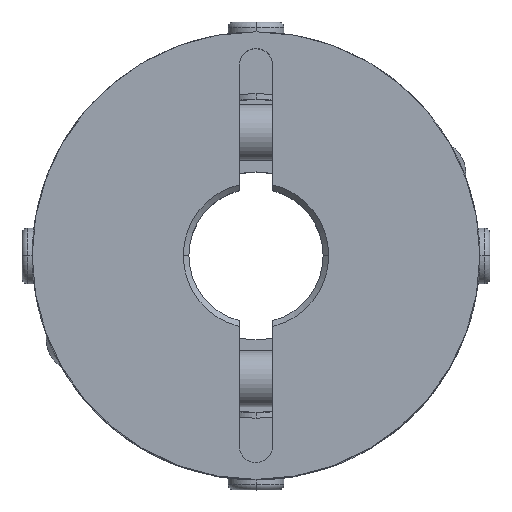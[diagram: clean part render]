
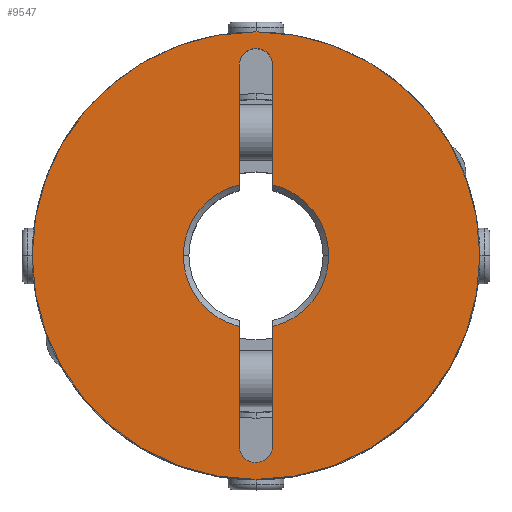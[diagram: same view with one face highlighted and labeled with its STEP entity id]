
A CAD part, top view. The second image highlights one B-rep face of the part: STEP entity #9547.
In plain terms, the highlighted planar face has unit normal (0, 0, 1).
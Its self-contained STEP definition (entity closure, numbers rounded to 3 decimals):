
#829=CARTESIAN_POINT('',(-20.0,0.,20.0));
#830=VERTEX_POINT('',#829);
#837=CARTESIAN_POINT('',(20.0,0.0,20.0));
#838=VERTEX_POINT('',#837);
#839=CARTESIAN_POINT('',(0.0,0.0,20.0));
#840=DIRECTION('',(0.0,0.0,-1.0));
#841=DIRECTION('',(1.0,0.0,0.0));
#842=AXIS2_PLACEMENT_3D('',#839,#840,#841);
#843=CIRCLE('',#842,20.0);
#844=EDGE_CURVE('',#830,#838,#843,.T.);
#1155=CARTESIAN_POINT('',(-1.061,18.061,20.0));
#1156=VERTEX_POINT('',#1155);
#1172=CARTESIAN_POINT('',(1.5,17.,20.0));
#1173=VERTEX_POINT('',#1172);
#1180=CARTESIAN_POINT('',(0.,17.,20.0));
#1181=DIRECTION('',(0.0,0.0,1.));
#1182=DIRECTION('',(0.707,0.707,0.0));
#1183=AXIS2_PLACEMENT_3D('',#1180,#1181,#1182);
#1184=CIRCLE('',#1183,1.5);
#1185=EDGE_CURVE('',#1173,#1156,#1184,.T.);
#1197=CARTESIAN_POINT('',(1.061,-18.061,20.0));
#1198=VERTEX_POINT('',#1197);
#1214=CARTESIAN_POINT('',(-1.5,-17.,20.0));
#1215=VERTEX_POINT('',#1214);
#1222=CARTESIAN_POINT('',(0.0,-17.,20.0));
#1223=DIRECTION('',(0.0,0.0,1.0));
#1224=DIRECTION('',(-0.707,-0.707,0.0));
#1225=AXIS2_PLACEMENT_3D('',#1222,#1223,#1224);
#1226=CIRCLE('',#1225,1.5);
#1227=EDGE_CURVE('',#1215,#1198,#1226,.T.);
#1237=CARTESIAN_POINT('',(-6.5,0.,20.0));
#1238=VERTEX_POINT('',#1237);
#1245=CARTESIAN_POINT('',(-1.5,-6.325,20.0));
#1246=VERTEX_POINT('',#1245);
#1247=CARTESIAN_POINT('',(0.0,0.0,20.0));
#1248=DIRECTION('',(0.0,0.0,1.0));
#1249=DIRECTION('',(-1.0,0.0,0.0));
#1250=AXIS2_PLACEMENT_3D('',#1247,#1248,#1249);
#1251=CIRCLE('',#1250,6.5);
#1252=EDGE_CURVE('',#1238,#1246,#1251,.T.);
#1276=CARTESIAN_POINT('',(6.5,0.,20.0));
#1277=VERTEX_POINT('',#1276);
#1284=CARTESIAN_POINT('',(1.5,6.325,20.0));
#1285=VERTEX_POINT('',#1284);
#1286=CARTESIAN_POINT('',(0.0,0.0,20.0));
#1287=DIRECTION('',(0.0,0.0,1.0));
#1288=DIRECTION('',(1.0,0.0,0.0));
#1289=AXIS2_PLACEMENT_3D('',#1286,#1287,#1288);
#1290=CIRCLE('',#1289,6.5);
#1291=EDGE_CURVE('',#1277,#1285,#1290,.T.);
#9352=CARTESIAN_POINT('',(-1.5,17.,20.0));
#9353=VERTEX_POINT('',#9352);
#9360=CARTESIAN_POINT('',(-1.5,6.325,20.0));
#9361=VERTEX_POINT('',#9360);
#9362=CARTESIAN_POINT('',(-1.5,6.325,20.0));
#9363=DIRECTION('',(0.0,1.0,0.0));
#9364=VECTOR('',#9363,10.675);
#9365=LINE('',#9362,#9364);
#9366=EDGE_CURVE('',#9361,#9353,#9365,.T.);
#9441=CARTESIAN_POINT('',(1.5,17.,20.0));
#9442=DIRECTION('',(0.0,-1.0,0.0));
#9443=VECTOR('',#9442,10.675);
#9444=LINE('',#9441,#9443);
#9445=EDGE_CURVE('',#1173,#1285,#9444,.T.);
#9463=CARTESIAN_POINT('',(1.5,-6.325,20.0));
#9464=VERTEX_POINT('',#9463);
#9478=CARTESIAN_POINT('',(0.0,0.0,20.0));
#9479=DIRECTION('',(0.0,0.0,1.0));
#9480=DIRECTION('',(1.0,0.0,0.0));
#9481=AXIS2_PLACEMENT_3D('',#9478,#9479,#9480);
#9482=CIRCLE('',#9481,6.5);
#9483=EDGE_CURVE('',#9464,#1277,#9482,.T.);
#9488=CARTESIAN_POINT('',(1.818,0.,20.0));
#9489=DIRECTION('',(0.0,0.0,1.0));
#9490=DIRECTION('',(1.0,0.0,0.0));
#9491=AXIS2_PLACEMENT_3D('',#9488,#9489,#9490);
#9492=PLANE('',#9491);
#9493=CARTESIAN_POINT('',(0.0,0.0,20.0));
#9494=DIRECTION('',(0.0,0.0,-1.0));
#9495=DIRECTION('',(1.0,0.0,0.0));
#9496=AXIS2_PLACEMENT_3D('',#9493,#9494,#9495);
#9497=CIRCLE('',#9496,20.0);
#9498=EDGE_CURVE('',#838,#830,#9497,.T.);
#9499=ORIENTED_EDGE('',*,*,#9498,.F.);
#9500=ORIENTED_EDGE('',*,*,#844,.F.);
#9501=EDGE_LOOP('',(#9499,#9500));
#9502=FACE_OUTER_BOUND('',#9501,.T.);
#9503=ORIENTED_EDGE('',*,*,#9483,.F.);
#9504=CARTESIAN_POINT('',(1.5,-17.,20.0));
#9505=VERTEX_POINT('',#9504);
#9506=CARTESIAN_POINT('',(1.5,-6.325,20.0));
#9507=DIRECTION('',(0.0,-1.0,0.0));
#9508=VECTOR('',#9507,10.675);
#9509=LINE('',#9506,#9508);
#9510=EDGE_CURVE('',#9464,#9505,#9509,.T.);
#9511=ORIENTED_EDGE('',*,*,#9510,.T.);
#9512=CARTESIAN_POINT('',(0.0,-17.,20.0));
#9513=DIRECTION('',(0.0,0.0,1.0));
#9514=DIRECTION('',(-0.707,-0.707,0.0));
#9515=AXIS2_PLACEMENT_3D('',#9512,#9513,#9514);
#9516=CIRCLE('',#9515,1.5);
#9517=EDGE_CURVE('',#1198,#9505,#9516,.T.);
#9518=ORIENTED_EDGE('',*,*,#9517,.F.);
#9519=ORIENTED_EDGE('',*,*,#1227,.F.);
#9520=CARTESIAN_POINT('',(-1.5,-17.,20.0));
#9521=DIRECTION('',(0.0,1.0,0.0));
#9522=VECTOR('',#9521,10.675);
#9523=LINE('',#9520,#9522);
#9524=EDGE_CURVE('',#1215,#1246,#9523,.T.);
#9525=ORIENTED_EDGE('',*,*,#9524,.T.);
#9526=ORIENTED_EDGE('',*,*,#1252,.F.);
#9527=CARTESIAN_POINT('',(0.0,0.0,20.0));
#9528=DIRECTION('',(0.0,0.0,1.0));
#9529=DIRECTION('',(-1.0,0.0,0.0));
#9530=AXIS2_PLACEMENT_3D('',#9527,#9528,#9529);
#9531=CIRCLE('',#9530,6.5);
#9532=EDGE_CURVE('',#9361,#1238,#9531,.T.);
#9533=ORIENTED_EDGE('',*,*,#9532,.F.);
#9534=ORIENTED_EDGE('',*,*,#9366,.T.);
#9535=CARTESIAN_POINT('',(0.,17.,20.0));
#9536=DIRECTION('',(0.0,0.0,1.));
#9537=DIRECTION('',(0.707,0.707,0.0));
#9538=AXIS2_PLACEMENT_3D('',#9535,#9536,#9537);
#9539=CIRCLE('',#9538,1.5);
#9540=EDGE_CURVE('',#1156,#9353,#9539,.T.);
#9541=ORIENTED_EDGE('',*,*,#9540,.F.);
#9542=ORIENTED_EDGE('',*,*,#1185,.F.);
#9543=ORIENTED_EDGE('',*,*,#9445,.T.);
#9544=ORIENTED_EDGE('',*,*,#1291,.F.);
#9545=EDGE_LOOP('',(#9503,#9511,#9518,#9519,#9525,#9526,#9533,#9534,#9541,#9542,#9543,#9544));
#9546=FACE_BOUND('',#9545,.T.);
#9547=ADVANCED_FACE('',(#9502,#9546),#9492,.T.);
